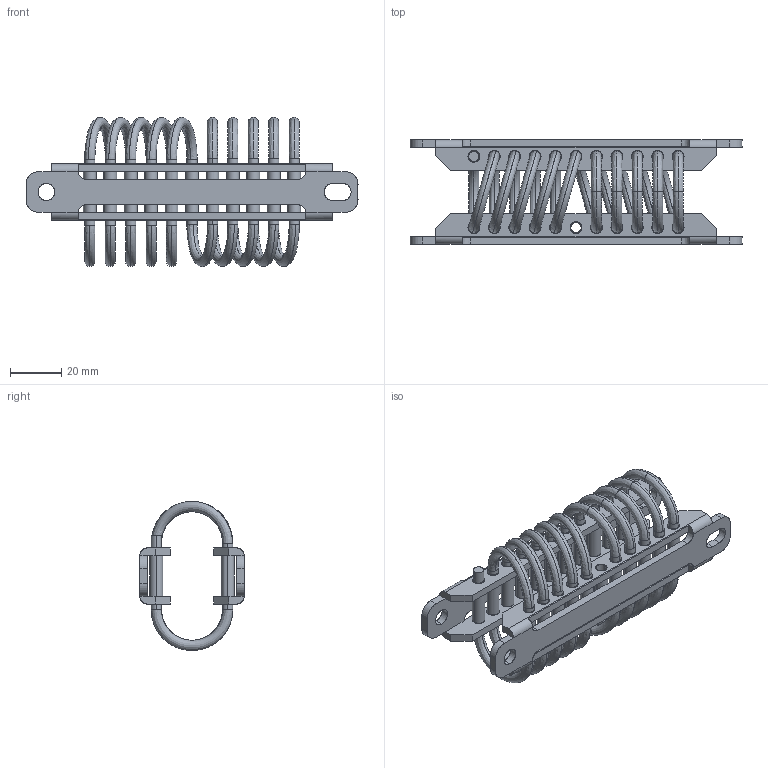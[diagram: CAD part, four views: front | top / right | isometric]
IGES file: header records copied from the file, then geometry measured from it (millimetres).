
Start section: SolidWorks IGES file using analytic representation for surfaces
Bounding box: 130 x 40.9 x 58.4 mm (x, y, z)
Surface area: 41240 mm2 (no closed solid volume)
Topology: 0 solids, 0 shells, 278 faces, 7492 edges, 7492 vertices
Faces by surface type: bspline 160, revolution 118
